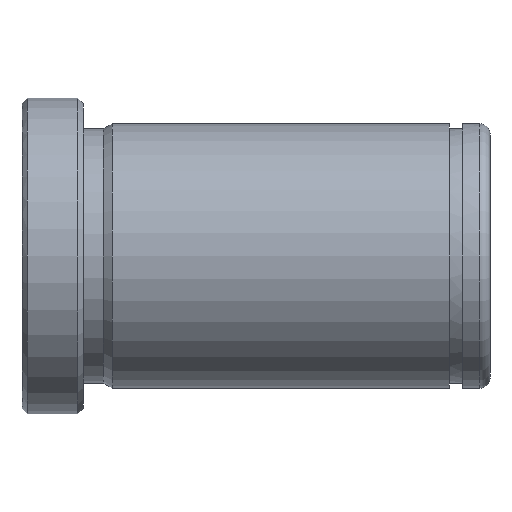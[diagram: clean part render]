
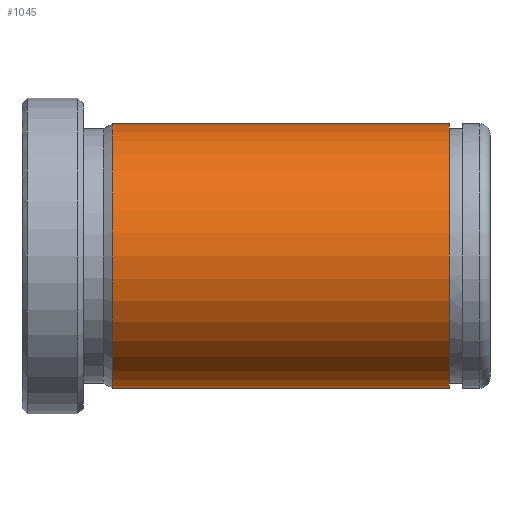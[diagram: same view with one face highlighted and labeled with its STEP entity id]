
A CAD part, front view. The second image highlights one B-rep face of the part: STEP entity #1045.
In plain terms, the highlighted cylindrical face has radius 13 mm (diameter 26 mm), a partial arc.
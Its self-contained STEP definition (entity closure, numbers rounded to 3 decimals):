
#851=CARTESIAN_POINT('Vertex',(8.866,0.,-13.)) ;
#858=CARTESIAN_POINT('Vertex',(8.866,0.,13.)) ;
#887=CARTESIAN_POINT('Axis2P3D Location',(8.866,0.,0.)) ;
#891=CARTESIAN_POINT('Vertex',(8.866,-13.,0.)) ;
#894=CARTESIAN_POINT('Axis2P3D Location',(8.866,0.,0.)) ;
#985=CARTESIAN_POINT('Line Origine',(92.,0.,13.)) ;
#989=CARTESIAN_POINT('Vertex',(42.,0.,13.)) ;
#1003=CARTESIAN_POINT('Vertex',(42.,0.,-13.)) ;
#1006=CARTESIAN_POINT('Line Origine',(92.,0.,-13.)) ;
#1020=CARTESIAN_POINT('Axis2P3D Location',(92.,0.,0.)) ;
#1025=CARTESIAN_POINT('Axis2P3D Location',(42.,0.,0.)) ;
#1029=CARTESIAN_POINT('Vertex',(42.,-13.,0.)) ;
#1032=CARTESIAN_POINT('Axis2P3D Location',(42.,0.,0.)) ;
#888=DIRECTION('Axis2P3D Direction',(1.,0.,-0.)) ;
#895=DIRECTION('Axis2P3D Direction',(1.,0.,-0.)) ;
#986=DIRECTION('Vector Direction',(-1.,0.,0.)) ;
#1007=DIRECTION('Vector Direction',(-1.,0.,0.)) ;
#1021=DIRECTION('Axis2P3D Direction',(-1.,-0.,-0.)) ;
#1022=DIRECTION('Axis2P3D XDirection',(0.,0.,-1.)) ;
#1026=DIRECTION('Axis2P3D Direction',(-1.,-0.,-0.)) ;
#1033=DIRECTION('Axis2P3D Direction',(-1.,-0.,-0.)) ;
#889=AXIS2_PLACEMENT_3D('Circle Axis2P3D',#887,#888,$) ;
#896=AXIS2_PLACEMENT_3D('Circle Axis2P3D',#894,#895,$) ;
#1023=AXIS2_PLACEMENT_3D('Cylinder Axis2P3D',#1020,#1021,#1022) ;
#1027=AXIS2_PLACEMENT_3D('Circle Axis2P3D',#1025,#1026,$) ;
#1034=AXIS2_PLACEMENT_3D('Circle Axis2P3D',#1032,#1033,$) ;
#1038=ORIENTED_EDGE('',*,*,#1010,.T.) ;
#1039=ORIENTED_EDGE('',*,*,#1031,.F.) ;
#1040=ORIENTED_EDGE('',*,*,#1036,.F.) ;
#1041=ORIENTED_EDGE('',*,*,#991,.T.) ;
#1042=ORIENTED_EDGE('',*,*,#898,.T.) ;
#1043=ORIENTED_EDGE('',*,*,#893,.T.) ;
#987=VECTOR('Line Direction',#986,1.) ;
#1008=VECTOR('Line Direction',#1007,1.) ;
#1045=ADVANCED_FACE('553-20X46',(#1044),#1024,.T.) ;
#890=CIRCLE('generated circle',#889,13.) ;
#897=CIRCLE('generated circle',#896,13.) ;
#1028=CIRCLE('generated circle',#1027,13.) ;
#1035=CIRCLE('generated circle',#1034,13.) ;
#1024=CYLINDRICAL_SURFACE('generated cylinder',#1023,13.) ;
#893=EDGE_CURVE('',#892,#852,#890,.T.) ;
#898=EDGE_CURVE('',#859,#892,#897,.T.) ;
#991=EDGE_CURVE('',#990,#859,#988,.T.) ;
#1010=EDGE_CURVE('',#852,#1004,#1009,.F.) ;
#1031=EDGE_CURVE('',#1030,#1004,#1028,.F.) ;
#1036=EDGE_CURVE('',#990,#1030,#1035,.F.) ;
#1037=EDGE_LOOP('',(#1038,#1039,#1040,#1041,#1042,#1043)) ;
#1044=FACE_OUTER_BOUND('',#1037,.T.) ;
#988=LINE('Line',#985,#987) ;
#1009=LINE('Line',#1006,#1008) ;
#852=VERTEX_POINT('',#851) ;
#859=VERTEX_POINT('',#858) ;
#892=VERTEX_POINT('',#891) ;
#990=VERTEX_POINT('',#989) ;
#1004=VERTEX_POINT('',#1003) ;
#1030=VERTEX_POINT('',#1029) ;
